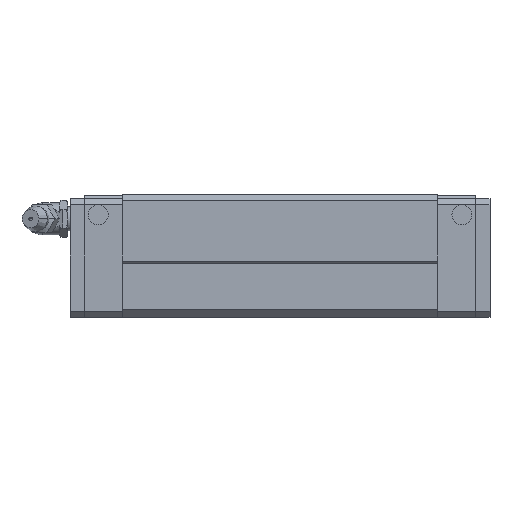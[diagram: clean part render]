
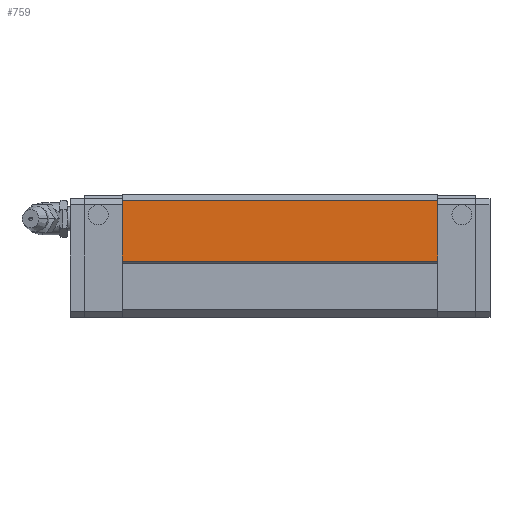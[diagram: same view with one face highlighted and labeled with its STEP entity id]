
A CAD part, front view. The second image highlights one B-rep face of the part: STEP entity #759.
In plain terms, the highlighted planar face has unit normal (0, -1, 0).
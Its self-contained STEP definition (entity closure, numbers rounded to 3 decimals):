
#698=CARTESIAN_POINT('POINT44',(91.6,-24.,
   14.));
#699=VERTEX_POINT('VERTEX44',#698);
#706=CARTESIAN_POINT('POINT45',(13.,-24.,
   14.));
#707=VERTEX_POINT('VERTEX45',#706);
#708=CARTESIAN_POINT('POS73',(13.,-24.,
   14.));
#709=DIRECTION('DIR108',(1.,0.,0.));
#710=VECTOR('VEC38',#709,1.);
#711=LINE('STRAIGHT38',#708,#710);
#712=EDGE_CURVE('EDGE70',#707,#699,#711,.T.);
#729=CARTESIAN_POINT('POINT46',(91.6,-24.,
   29.));
#730=VERTEX_POINT('VERTEX46',#729);
#731=CARTESIAN_POINT('POS76',(91.6,-24.,
   29.));
#732=DIRECTION('DIR112',(0.,0.,1.));
#733=VECTOR('VEC40',#732,1.);
#734=LINE('STRAIGHT40',#731,#733);
#735=EDGE_CURVE('EDGE72',#699,#730,#734,.T.);
#736=ORIENTED_EDGE('COEDGE127',*,*,#735,.T.);
#737=CARTESIAN_POINT('POINT47',(13.,-24.,
   29.));
#738=VERTEX_POINT('VERTEX47',#737);
#739=CARTESIAN_POINT('POS77',(13.,-24.,
   29.));
#740=DIRECTION('DIR113',(1.,0.,0.));
#741=VECTOR('VEC41',#740,1.);
#742=LINE('STRAIGHT41',#739,#741);
#743=EDGE_CURVE('EDGE73',#738,#730,#742,.T.);
#744=ORIENTED_EDGE('COEDGE128',*,*,#743,.F.);
#745=CARTESIAN_POINT('POS78',(13.,-24.,
   29.));
#746=DIRECTION('DIR114',(0.,0.,-1.));
#747=VECTOR('VEC42',#746,1.);
#748=LINE('STRAIGHT42',#745,#747);
#749=EDGE_CURVE('EDGE74',#738,#707,#748,.T.);
#750=ORIENTED_EDGE('COEDGE129',*,*,#749,.T.);
#751=ORIENTED_EDGE('COEDGE130',*,*,#712,.T.);
#752=EDGE_LOOP('NONE',(#736,#744,#750,#751));
#753=FACE_BOUND('LOOP1',#752,.T.);
#754=CARTESIAN_POINT('POS79',(13.,-24.,
   14.));
#755=DIRECTION('DIR115',(0.,-1.,0.));
#756=DIRECTION('DIR116',(1.,0.,0.));
#757=AXIS2_PLACEMENT_3D('AXIS37',#754,#755,#756);
#758=PLANE('PLANE8',#757);
#759=ADVANCED_FACE('FACE34',(#753),#758,.T.);
